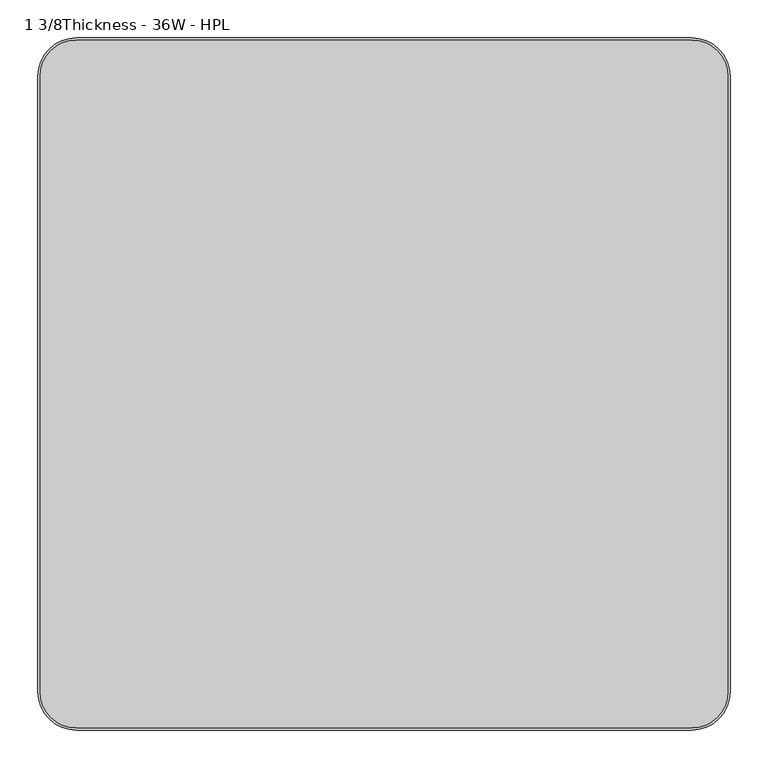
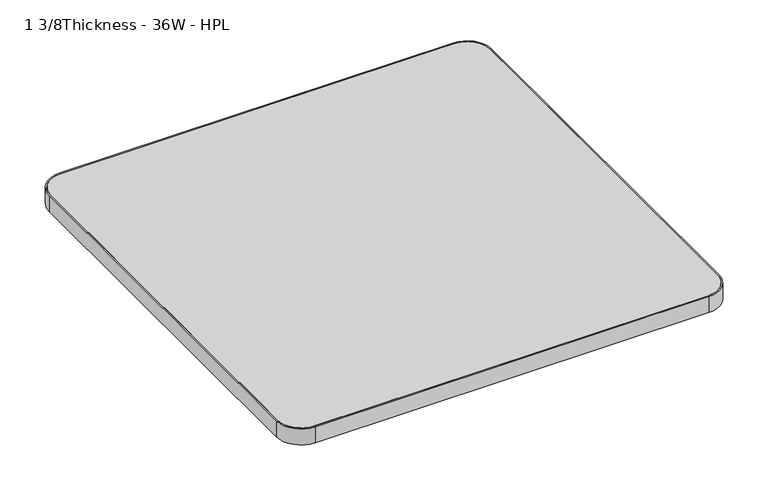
"""IFC4 building model written with IfcOpenShell, lengths in millimetres: furniture geometry, Steelcase - Groupwork - Table - Top - Square : 1 3/8Thickness - 36W - HPL."""

from ifc_helpers import new_model, si_unit, point, frame, frame_2d, origin, place, context, project, spatial, polyline, circle_curve, trimmed, segment, composite_curve, outline, extrude, source, transform, mapped, element, save


def furniture_1_3_8thickness_36w_hpl_a2e24731(model_context):
    return source(origin(), model_context, "Body", "SweptSolid", [
        extrude(outline(composite_curve([segment(polyline([(-434.848, 454.2), (378.048, 454.2)]), True, "CONTINUOUS"), segment(trimmed(circle_curve(frame_2d((378.048, 406.448)), 47.752), [point((378.048, 454.2))], [point((425.8, 406.448))], False, "CARTESIAN"), True, "CONTINUOUS"), segment(polyline([(425.8, 406.448), (425.8, -406.448)]), True, "CONTINUOUS"), segment(trimmed(circle_curve(frame_2d((378.048, -406.448)), 47.752), [point((425.8, -406.448))], [point((378.048, -454.2))], False, "CARTESIAN"), True, "CONTINUOUS"), segment(polyline([(378.048, -454.2), (-434.848, -454.2)]), True, "CONTINUOUS"), segment(trimmed(circle_curve(frame_2d((-434.848, -406.448)), 47.752), [point((-434.848, -454.2))], [point((-482.6, -406.448))], False, "CARTESIAN"), True, "CONTINUOUS"), segment(polyline([(-482.6, -406.448), (-482.6, 406.448)]), True, "CONTINUOUS"), segment(trimmed(circle_curve(frame_2d((-434.848, 406.448)), 47.752), [point((-482.6, 406.448))], [point((-434.848, 454.2))], False, "CARTESIAN"), True, "CONTINUOUS")], self_intersect=False)), frame((0.0, 0.0, 695.579), z_axis=(0.0, 0.0, 1.0), x_axis=(1.0, 0.0, 0.0)), (0.0, 0.0, 1.0), 35.052),
        extrude(outline(composite_curve([segment(trimmed(circle_curve(frame_2d((378.0, 406.4)), 50.8), [point((378.0, 457.2))], [point((428.8, 406.4))], False, "CARTESIAN"), True, "CONTINUOUS"), segment(polyline([(428.8, 406.4), (428.8, -406.4)]), True, "CONTINUOUS"), segment(trimmed(circle_curve(frame_2d((378.0, -406.4)), 50.8), [point((428.8, -406.4))], [point((378.0, -457.2))], False, "CARTESIAN"), True, "CONTINUOUS"), segment(polyline([(378.0, -457.2), (-434.8, -457.2)]), True, "CONTINUOUS"), segment(trimmed(circle_curve(frame_2d((-434.8, -406.4)), 50.8), [point((-434.8, -457.2))], [point((-485.6, -406.4))], False, "CARTESIAN"), True, "CONTINUOUS"), segment(polyline([(-485.6, -406.4), (-485.6, 406.4)]), True, "CONTINUOUS"), segment(trimmed(circle_curve(frame_2d((-434.8, 406.4)), 50.8), [point((-485.6, 406.4))], [point((-434.8, 457.2))], False, "CARTESIAN"), True, "CONTINUOUS"), segment(polyline([(-434.8, 457.2), (378.0, 457.2)]), True, "CONTINUOUS")], self_intersect=False), holes=[composite_curve([segment(polyline([(378.048, 454.2), (-434.848, 454.2)]), True, "CONTINUOUS"), segment(trimmed(circle_curve(frame_2d((-434.848, 406.448)), 47.752), [point((-434.848, 454.2))], [point((-482.6, 406.448))], True, "CARTESIAN"), True, "CONTINUOUS"), segment(polyline([(-482.6, 406.448), (-482.6, -406.448)]), True, "CONTINUOUS"), segment(trimmed(circle_curve(frame_2d((-434.848, -406.448)), 47.752), [point((-482.6, -406.448))], [point((-434.848, -454.2))], True, "CARTESIAN"), True, "CONTINUOUS"), segment(polyline([(-434.848, -454.2), (378.048, -454.2)]), True, "CONTINUOUS"), segment(trimmed(circle_curve(frame_2d((378.048, -406.448)), 47.752), [point((378.048, -454.2))], [point((425.8, -406.448))], True, "CARTESIAN"), True, "CONTINUOUS"), segment(polyline([(425.8, -406.448), (425.8, 406.448)]), True, "CONTINUOUS"), segment(trimmed(circle_curve(frame_2d((378.048, 406.448)), 47.752), [point((425.8, 406.448))], [point((378.048, 454.2))], True, "CARTESIAN"), True, "CONTINUOUS")], self_intersect=False)]), frame((0.0, 0.0, 695.579), z_axis=(0.0, 0.0, 1.0), x_axis=(1.0, 0.0, 0.0)), (0.0, 0.0, 1.0), 35.052),
    ])


if __name__ == "__main__":
    model = new_model("IFC4")
    model_context = context("Model", 3, world=origin())
    ifc_project = project(units=[si_unit("LENGTHUNIT", "METRE", prefix="MILLI")], contexts=[model_context])
    site = spatial("IfcSite", under=ifc_project)
    building = spatial("IfcBuilding", under=site)
    placement = place(None, origin())
    furniture_1_3_8thickness_36w_hpl_shape = furniture_1_3_8thickness_36w_hpl_a2e24731(model_context)
    element("IfcFurniture", 1, ObjectType="Steelcase - Groupwork - Table - Top - Square : 1 3/8Thickness - 36W - HPL", at=placement, inside=building, context=model_context, shape_type="MappedRepresentation", body=[
        mapped(furniture_1_3_8thickness_36w_hpl_shape, transform((0.0, 0.0, 0.0), x_axis=(1.0, 0.0, 0.0), y_axis=(0.0, 1.0, 0.0), z_axis=(0.0, 0.0, 1.0))),
    ])
    save(model, "model.ifc")
